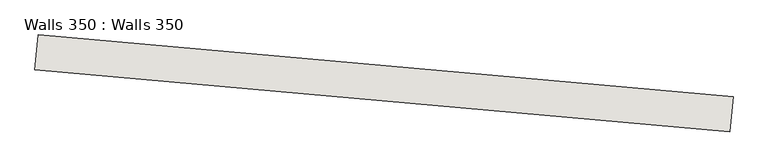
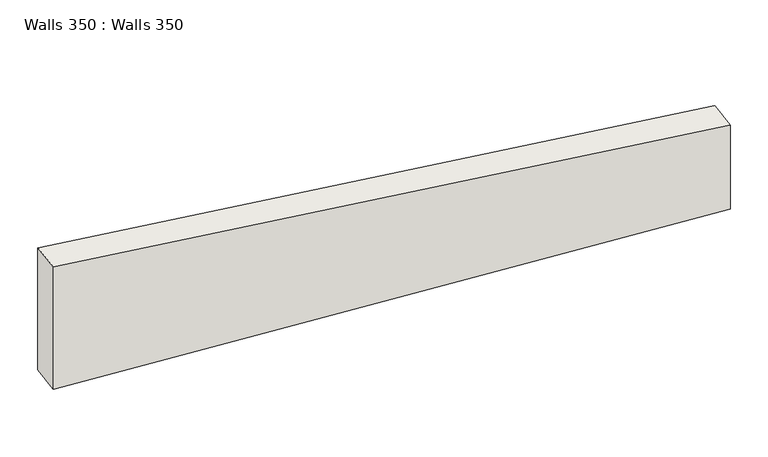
"""IFC4 building model written with IfcOpenShell, lengths in millimetres: wall geometry, Walls 350 : Walls 350."""

from ifc_helpers import new_model, si_unit, frame, origin, place, context, project, spatial, polyline, outline, extrude, source, transform, mapped, element, save


def walls_350_walls_350_5f03bfa0(model_context):
    return source(origin(), model_context, "Body", "SweptSolid", [
        extrude(outline(polyline([(-550.0, 0.0), (550.0, 0.0), (1050.0, -8000.0000001), (-550.0, -8000.0000001), (-550.0, 0.0)])), frame((-766306.1952742, -410811.2241108, 636410.0), z_axis=(0.08873732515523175, 0.9960550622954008, 0.0), x_axis=(0.0, 0.0, 1.0)), (0.0, 0.0, 1.0), 400.0),
    ])


if __name__ == "__main__":
    model = new_model("IFC4")
    model_context = context("Model", 3, world=origin())
    ifc_project = project(units=[si_unit("LENGTHUNIT", "METRE", prefix="MILLI")], contexts=[model_context])
    site = spatial("IfcSite", under=ifc_project)
    building = spatial("IfcBuilding", under=site)
    placement = place(None, origin())
    walls_350_walls_350_shape = walls_350_walls_350_5f03bfa0(model_context)
    element("IfcWall", 1, ObjectType="Walls 350 : Walls 350", at=placement, inside=building, context=model_context, shape_type="MappedRepresentation", body=[
        mapped(walls_350_walls_350_shape, transform((0.0, 0.0, 0.0), x_axis=(1.0, 0.0, 0.0), y_axis=(0.0, 1.0, 0.0), z_axis=(0.0, 0.0, 1.0))),
    ])
    save(model, "model.ifc")
